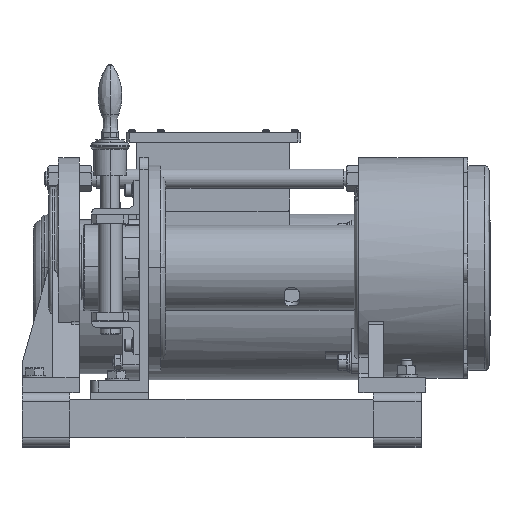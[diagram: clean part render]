
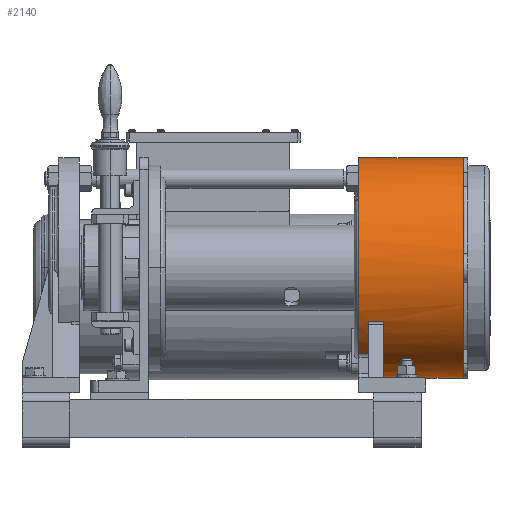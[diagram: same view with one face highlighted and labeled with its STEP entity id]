
A CAD part, top view. The second image highlights one B-rep face of the part: STEP entity #2140.
In plain terms, the highlighted cylindrical face has radius 115 mm (diameter 230 mm), a partial arc.
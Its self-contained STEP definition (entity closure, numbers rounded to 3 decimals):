
#2140=ADVANCED_FACE('',(#23827),#23826,.T.);
#23826=CYLINDRICAL_SURFACE('',#44897,115.);
#23827=FACE_OUTER_BOUND('',#44898,.T.);
#44894=CARTESIAN_POINT('',(1001.323,130.,1078.029));
#44895=DIRECTION('',(-1.,0.,0.));
#44896=DIRECTION('',(0.,-1.,0.));
#44897=AXIS2_PLACEMENT_3D('',#44894,#44895,#44896);
#44898=EDGE_LOOP('',(#60936,#60937,#60938,#60939,#60940,#60941,#60942,#60943,#60944,#60945,#60946,#60947,#60948,#60949));
#60936=ORIENTED_EDGE('',*,*,#70956,.T.);
#60937=ORIENTED_EDGE('',*,*,#65448,.F.);
#60938=ORIENTED_EDGE('',*,*,#70953,.F.);
#60939=ORIENTED_EDGE('',*,*,#70952,.F.);
#60940=ORIENTED_EDGE('',*,*,#65470,.F.);
#60941=ORIENTED_EDGE('',*,*,#70954,.F.);
#60942=ORIENTED_EDGE('',*,*,#65529,.F.);
#60943=ORIENTED_EDGE('',*,*,#65489,.F.);
#60944=ORIENTED_EDGE('',*,*,#69047,.T.);
#60945=ORIENTED_EDGE('',*,*,#65608,.F.);
#60946=ORIENTED_EDGE('',*,*,#65599,.T.);
#60947=ORIENTED_EDGE('',*,*,#65605,.T.);
#60948=ORIENTED_EDGE('',*,*,#65478,.T.);
#60949=ORIENTED_EDGE('',*,*,#70552,.F.);
#65448=EDGE_CURVE('',#76122,#76130,#76131,.T.);
#65470=EDGE_CURVE('',#76274,#76281,#76282,.T.);
#65478=EDGE_CURVE('',#76336,#76337,#76338,.T.);
#65489=EDGE_CURVE('',#76407,#76414,#76415,.T.);
#65529=EDGE_CURVE('',#76414,#76682,#76683,.T.);
#65599=EDGE_CURVE('',#77158,#77151,#77159,.T.);
#65605=EDGE_CURVE('',#77151,#76336,#77196,.T.);
#65608=EDGE_CURVE('',#77158,#77203,#77216,.T.);
#69047=EDGE_CURVE('',#76407,#77203,#100212,.T.);
#70552=EDGE_CURVE('',#76777,#76337,#110226,.T.);
#70952=EDGE_CURVE('',#76281,#101618,#112870,.T.);
#70953=EDGE_CURVE('',#101618,#76122,#112876,.T.);
#70954=EDGE_CURVE('',#76682,#76274,#112882,.T.);
#70956=EDGE_CURVE('',#76777,#76130,#112894,.T.);
#76122=VERTEX_POINT('',#122055);
#76130=VERTEX_POINT('',#122061);
#76131=CIRCLE('',#122065,115.);
#76274=VERTEX_POINT('',#122153);
#76281=VERTEX_POINT('',#122157);
#76282=CIRCLE('',#122161,115.);
#76336=VERTEX_POINT('',#122193);
#76337=VERTEX_POINT('',#122194);
#76338=CIRCLE('',#122198,115.);
#76407=VERTEX_POINT('',#122239);
#76414=VERTEX_POINT('',#122244);
#76415=LINE('',#122245,#122246);
#76682=VERTEX_POINT('',#122401);
#76683=CIRCLE('',#122405,115.);
#76777=VERTEX_POINT('',#122457);
#77151=VERTEX_POINT('',#122681);
#77158=VERTEX_POINT('',#122686);
#77159=CIRCLE('',#122690,115.);
#77196=LINE('',#122708,#122709);
#77203=VERTEX_POINT('',#122712);
#77216=LINE('',#122720,#122721);
#100212=CIRCLE('',#139121,115.);
#101618=VERTEX_POINT('',#140065);
#110226=LINE('',#146104,#146105);
#112870=CIRCLE('',#148051,115.);
#112876=CIRCLE('',#148055,115.);
#112882=LINE('',#148056,#148057);
#112894=LINE('',#148062,#148063);
#122055=CARTESIAN_POINT('',(1019.323,15.144,1083.779));
#122061=CARTESIAN_POINT('',(1019.323,15.,1078.029));
#122062=CARTESIAN_POINT('',(1019.323,130.,1078.029));
#122063=DIRECTION('',(1.,0.,0.));
#122064=DIRECTION('',(0.,-1.,0.));
#122065=AXIS2_PLACEMENT_3D('',#122062,#122063,#122064);
#122153=CARTESIAN_POINT('',(1019.323,245.,1078.029));
#122157=CARTESIAN_POINT('',(1019.323,244.856,1083.779));
#122158=CARTESIAN_POINT('',(1019.323,130.,1078.029));
#122159=DIRECTION('',(1.,0.,0.));
#122160=DIRECTION('',(0.,-1.,0.));
#122161=AXIS2_PLACEMENT_3D('',#122158,#122159,#122160);
#122193=CARTESIAN_POINT('',(934.323,40.228,1149.904));
#122194=CARTESIAN_POINT('',(934.323,15.,1078.029));
#122195=CARTESIAN_POINT('',(934.323,130.,1078.029));
#122196=DIRECTION('',(1.,0.,0.));
#122197=DIRECTION('',(0.,1.,0.));
#122198=AXIS2_PLACEMENT_3D('',#122195,#122196,#122197);
#122239=CARTESIAN_POINT('',(920.323,40.228,1149.904));
#122244=CARTESIAN_POINT('',(910.323,40.228,1149.904));
#122245=CARTESIAN_POINT('',(920.323,40.228,1149.904));
#122246=VECTOR('',#122247,10.);
#122247=DIRECTION('',(-1.,0.,0.));
#122401=CARTESIAN_POINT('',(910.323,245.,1078.029));
#122402=CARTESIAN_POINT('',(910.323,130.,1078.029));
#122403=DIRECTION('',(-1.,0.,0.));
#122404=DIRECTION('',(0.,1.,0.));
#122405=AXIS2_PLACEMENT_3D('',#122402,#122403,#122404);
#122457=CARTESIAN_POINT('',(980.323,15.,1078.029));
#122681=CARTESIAN_POINT('',(936.323,40.228,1149.904));
#122686=CARTESIAN_POINT('',(936.323,74.243,1178.608));
#122687=CARTESIAN_POINT('',(936.323,130.,1078.029));
#122688=DIRECTION('',(1.,0.,0.));
#122689=DIRECTION('',(0.,-1.,0.));
#122690=AXIS2_PLACEMENT_3D('',#122687,#122688,#122689);
#122708=CARTESIAN_POINT('',(936.323,40.228,1149.904));
#122709=VECTOR('',#122710,2.);
#122710=DIRECTION('',(-1.,0.,0.));
#122712=CARTESIAN_POINT('',(920.323,74.243,1178.608));
#122720=CARTESIAN_POINT('',(936.323,74.243,1178.608));
#122721=VECTOR('',#122722,16.);
#122722=DIRECTION('',(-1.,0.,0.));
#139118=CARTESIAN_POINT('',(920.323,130.,1078.029));
#139119=DIRECTION('',(-1.,0.,0.));
#139120=DIRECTION('',(0.,1.,0.));
#139121=AXIS2_PLACEMENT_3D('',#139118,#139119,#139120);
#140065=CARTESIAN_POINT('',(1019.323,130.,1193.029));
#146104=CARTESIAN_POINT('',(980.323,15.,1078.029));
#146105=VECTOR('',#146106,46.);
#146106=DIRECTION('',(-1.,0.,0.));
#148048=CARTESIAN_POINT('',(1019.323,130.,1078.029));
#148049=DIRECTION('',(1.,0.,0.));
#148050=DIRECTION('',(0.,-1.,0.));
#148051=AXIS2_PLACEMENT_3D('',#148048,#148049,#148050);
#148052=CARTESIAN_POINT('',(1019.323,130.,1078.029));
#148053=DIRECTION('',(1.,0.,0.));
#148054=DIRECTION('',(0.,-1.,0.));
#148055=AXIS2_PLACEMENT_3D('',#148052,#148053,#148054);
#148056=CARTESIAN_POINT('',(910.323,245.,1078.029));
#148057=VECTOR('',#148058,109.);
#148058=DIRECTION('',(1.,0.,0.));
#148062=CARTESIAN_POINT('',(980.323,15.,1078.029));
#148063=VECTOR('',#148064,39.);
#148064=DIRECTION('',(1.,0.,0.));
